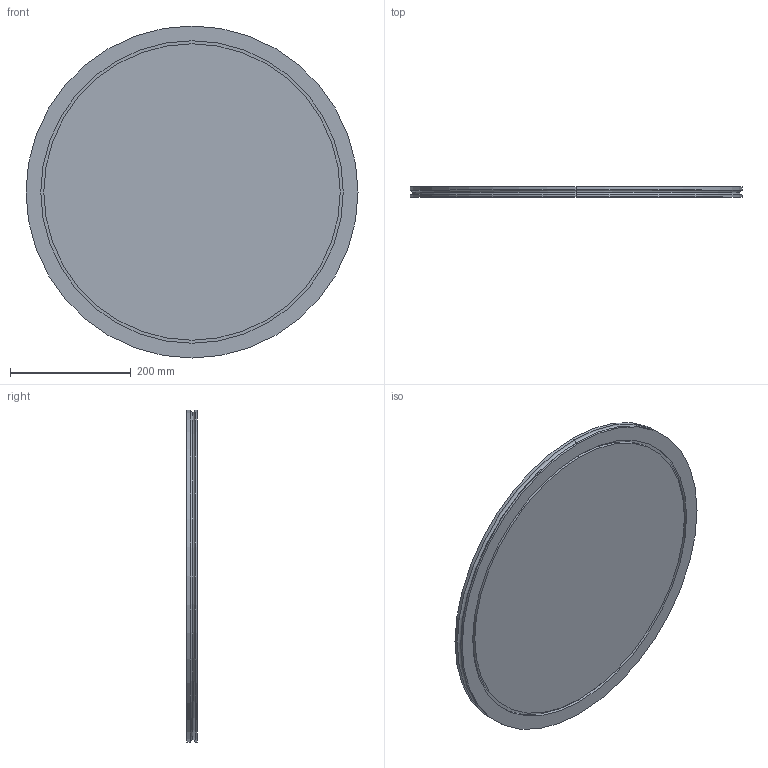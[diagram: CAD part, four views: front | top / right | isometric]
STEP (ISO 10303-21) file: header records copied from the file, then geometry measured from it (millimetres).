
FILE_DESCRIPTION (( 'STEP AP214' ), '1' );
FILE_NAME ('W4BF500.STEP', '2019-03-27T10:17:00', ( '' ), ( '' ), 'SwSTEP 2.0', 'SolidWorks 2018', '' );
FILE_SCHEMA (( 'AUTOMOTIVE_DESIGN' ));
Length unit declared in the file: millimetre
Products named in the file (1): W4BF500
Bounding box: 550 x 17 x 550 mm (x, y, z)
Volume: 3929410 mm3; surface area: 534560.9 mm2
Topology: 1 solids, 1 shells, 22 faces, 42 edges, 26 vertices
Faces by surface type: cylinder 12, plane 6, torus 4
Entity records: 602 total; most frequent: DIRECTION 118, CARTESIAN_POINT 91, ORIENTED_EDGE 84, AXIS2_PLACEMENT_3D 53, EDGE_CURVE 42, CIRCLE 30, EDGE_LOOP 26, VERTEX_POINT 26
